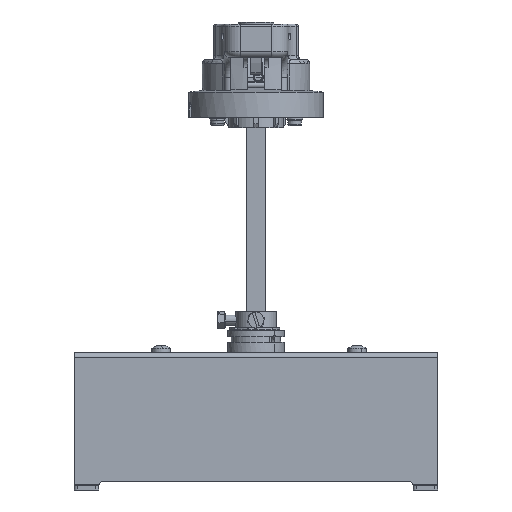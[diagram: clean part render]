
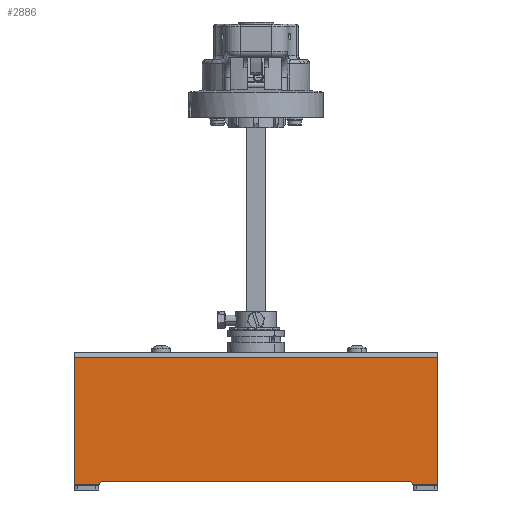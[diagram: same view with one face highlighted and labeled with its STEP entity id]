
A CAD part, front view. The second image highlights one B-rep face of the part: STEP entity #2886.
In plain terms, the highlighted planar face has unit normal (0, -1, 0).
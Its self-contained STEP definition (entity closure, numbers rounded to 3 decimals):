
#1869=PLANE('',#30772);
#2886=ADVANCED_FACE('',(#5042),#1869,.F.);
#5042=FACE_OUTER_BOUND('',#6683,.T.);
#6683=EDGE_LOOP('',(#14928,#14929,#14930,#14931,#14932,#14933,#14934,#14935));
#8792=LINE('',#43435,#11280);
#8848=LINE('',#44140,#11336);
#8854=LINE('',#44151,#11342);
#8855=LINE('',#44153,#11343);
#8856=LINE('',#44157,#11344);
#8857=LINE('',#44160,#11345);
#11280=VECTOR('',#34272,1.);
#11336=VECTOR('',#34422,1.);
#11342=VECTOR('',#34430,1.);
#11343=VECTOR('',#34433,1.);
#11344=VECTOR('',#34436,1.);
#11345=VECTOR('',#34439,1.);
#14928=ORIENTED_EDGE('',*,*,#25700,.F.);
#14929=ORIENTED_EDGE('',*,*,#25701,.T.);
#14930=ORIENTED_EDGE('',*,*,#25702,.T.);
#14931=ORIENTED_EDGE('',*,*,#25703,.T.);
#14932=ORIENTED_EDGE('',*,*,#25587,.F.);
#14933=ORIENTED_EDGE('',*,*,#25699,.T.);
#14934=ORIENTED_EDGE('',*,*,#25704,.F.);
#14935=ORIENTED_EDGE('',*,*,#25693,.T.);
#22529=VERTEX_POINT('',#43436);
#22530=VERTEX_POINT('',#43437);
#22610=VERTEX_POINT('',#44138);
#22612=VERTEX_POINT('',#44141);
#22615=VERTEX_POINT('',#44150);
#22616=VERTEX_POINT('',#44154);
#22617=VERTEX_POINT('',#44156);
#22618=VERTEX_POINT('',#44158);
#25587=EDGE_CURVE('',#22529,#22530,#8792,.T.);
#25693=EDGE_CURVE('',#22612,#22610,#8848,.T.);
#25699=EDGE_CURVE('',#22529,#22615,#8854,.T.);
#25700=EDGE_CURVE('',#22616,#22610,#8855,.T.);
#25701=EDGE_CURVE('',#22616,#22617,#29350,.T.);
#25702=EDGE_CURVE('',#22617,#22618,#8856,.T.);
#25703=EDGE_CURVE('',#22618,#22530,#29351,.T.);
#25704=EDGE_CURVE('',#22612,#22615,#8857,.T.);
#29350=CIRCLE('',#30770,1.5);
#29351=CIRCLE('',#30771,1.5);
#30770=AXIS2_PLACEMENT_3D('',#44155,#34434,#34435);
#30771=AXIS2_PLACEMENT_3D('',#44159,#34437,#34438);
#30772=AXIS2_PLACEMENT_3D('',#44161,#34440,#34441);
#34272=DIRECTION('',(-1.,0.,0.));
#34422=DIRECTION('',(0.,0.,-1.));
#34430=DIRECTION('',(0.,0.,1.));
#34433=DIRECTION('',(-1.,0.,0.));
#34434=DIRECTION('',(0.,1.,0.));
#34435=DIRECTION('',(0.,0.,1.));
#34436=DIRECTION('',(1.,0.,0.));
#34437=DIRECTION('',(0.,1.,0.));
#34438=DIRECTION('',(0.,0.,1.));
#34439=DIRECTION('',(1.,0.,0.));
#34440=DIRECTION('',(0.,1.,0.));
#34441=DIRECTION('',(0.,0.,-1.));
#43435=CARTESIAN_POINT('',(90.,-94.,-63.5));
#43436=CARTESIAN_POINT('',(90.,-94.,-63.5));
#43437=CARTESIAN_POINT('',(77.8,-94.,-63.5));
#44138=CARTESIAN_POINT('',(-90.,-94.,-63.5));
#44140=CARTESIAN_POINT('',(-90.,-94.,0.));
#44141=CARTESIAN_POINT('',(-90.,-94.,-0.5));
#44150=CARTESIAN_POINT('',(90.,-94.,-0.5));
#44151=CARTESIAN_POINT('',(90.,-94.,0.));
#44153=CARTESIAN_POINT('',(90.,-94.,-63.5));
#44154=CARTESIAN_POINT('',(-77.8,-94.,-63.5));
#44155=CARTESIAN_POINT('',(-76.3,-94.,-63.5));
#44156=CARTESIAN_POINT('',(-76.3,-94.,-62.));
#44157=CARTESIAN_POINT('',(0.,-94.,-62.));
#44158=CARTESIAN_POINT('',(76.3,-94.,-62.));
#44159=CARTESIAN_POINT('',(76.3,-94.,-63.5));
#44160=CARTESIAN_POINT('',(90.,-94.,-0.5));
#44161=CARTESIAN_POINT('',(0.,-94.,0.));
